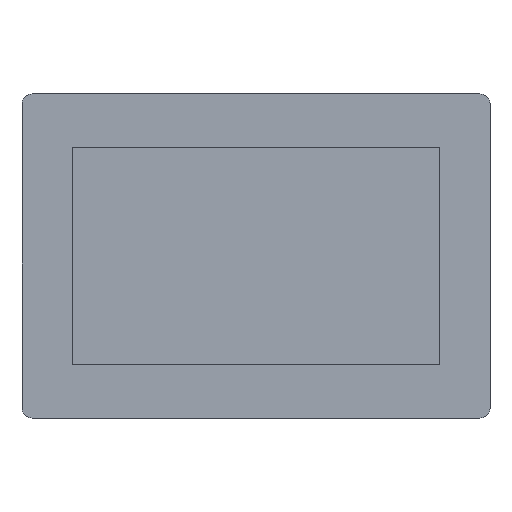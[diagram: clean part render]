
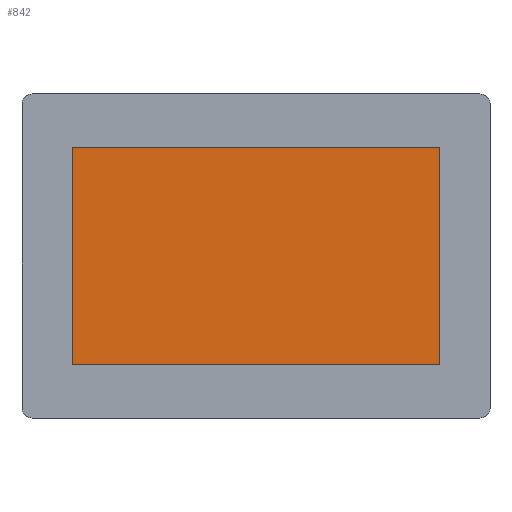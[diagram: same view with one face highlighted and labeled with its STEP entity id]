
A CAD part, top view. The second image highlights one B-rep face of the part: STEP entity #842.
In plain terms, the highlighted planar face has unit normal (0, 0, 1).
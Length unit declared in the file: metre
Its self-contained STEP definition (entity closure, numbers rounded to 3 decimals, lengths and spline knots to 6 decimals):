
#135=ORIENTED_EDGE('',*,*,#324,.F.);
#136=ORIENTED_EDGE('',*,*,#327,.T.);
#137=ORIENTED_EDGE('',*,*,#329,.T.);
#138=ORIENTED_EDGE('',*,*,#330,.F.);
#324=EDGE_CURVE('',#425,#426,#504,.T.);
#327=EDGE_CURVE('',#425,#427,#507,.T.);
#329=EDGE_CURVE('',#427,#428,#509,.T.);
#330=EDGE_CURVE('',#426,#428,#510,.T.);
#425=VERTEX_POINT('',#1274);
#426=VERTEX_POINT('',#1276);
#427=VERTEX_POINT('',#1280);
#428=VERTEX_POINT('',#1284);
#504=LINE('',#1275,#604);
#507=LINE('',#1281,#607);
#509=LINE('',#1285,#609);
#510=LINE('',#1287,#610);
#604=VECTOR('',#1045,1.);
#607=VECTOR('',#1050,1.);
#609=VECTOR('',#1054,1.);
#610=VECTOR('',#1057,1.);
#693=EDGE_LOOP('',(#135,#136,#137,#138));
#749=FACE_BOUND('',#693,.T.);
#796=PLANE('',#918);
#842=ADVANCED_FACE('',(#749),#796,.T.);
#918=AXIS2_PLACEMENT_3D('',#1288,#1058,#1059);
#1045=DIRECTION('',(0.,-1.,0.));
#1050=DIRECTION('',(-1.,0.,0.));
#1054=DIRECTION('',(0.,-1.,0.));
#1057=DIRECTION('',(-1.,0.,0.));
#1058=DIRECTION('',(0.,0.,1.));
#1059=DIRECTION('',(1.,0.,0.));
#1274=CARTESIAN_POINT('',(0.055,0.0326,0.00179));
#1275=CARTESIAN_POINT('',(0.055,0.,0.00179));
#1276=CARTESIAN_POINT('',(0.055,-0.0326,0.00179));
#1280=CARTESIAN_POINT('',(-0.055,0.0326,0.00179));
#1281=CARTESIAN_POINT('',(0.,0.0326,0.00179));
#1284=CARTESIAN_POINT('',(-0.055,-0.0326,0.00179));
#1285=CARTESIAN_POINT('',(-0.055,0.,0.00179));
#1287=CARTESIAN_POINT('',(0.,-0.0326,0.00179));
#1288=CARTESIAN_POINT('',(0.,0.,0.00179));
